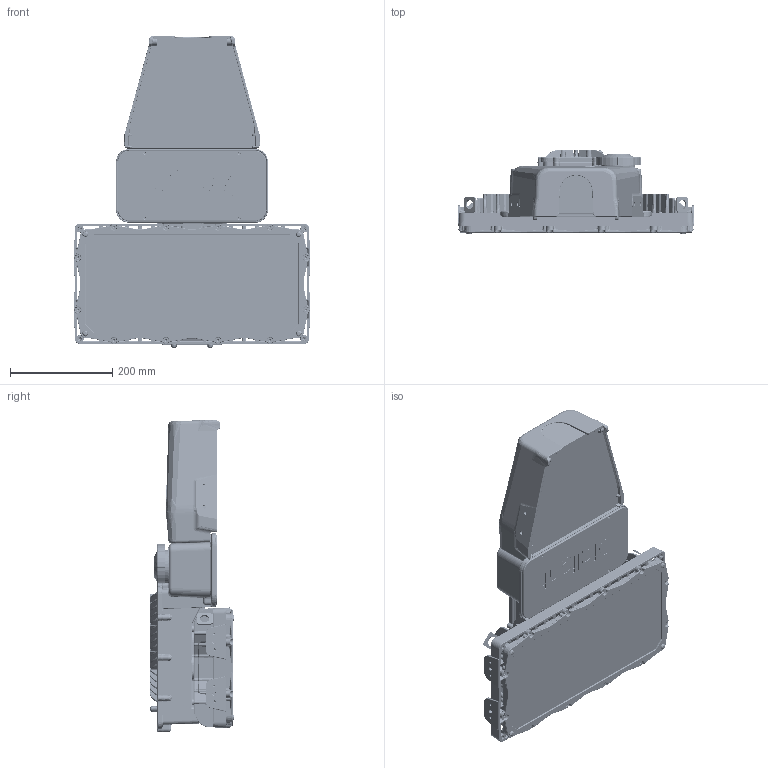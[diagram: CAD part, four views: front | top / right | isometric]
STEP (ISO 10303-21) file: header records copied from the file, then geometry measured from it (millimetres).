
FILE_DESCRIPTION((''),'2;1');
FILE_NAME('8F1X_MAST_ARM_PC_MARKETING_ASM','2024-08-22T12:18:59',('cwang'),(''),'CREO PARAMETRIC BY PTC INC, 2021304','CREO PARAMETRIC BY PTC INC, 2021304','');
FILE_SCHEMA(('CONFIG_CONTROL_DESIGN'));
Products named in the file (27): 0000690301; 0000690295_ASM; 0000690311; 0000690312; 0000690296_ASM; 0000690310; 0000690313; 0000690316; 0000690307; 0000690317; 0000690297_ASM; 0000690318; 0000690320; 0000690298_ASM; 0000690321; 0000690299_ASM; 0000690323; 0000690324; 0000690300_ASM; 0000690327; 0000690333; 9300STL000401; 9300STL000403; 6000STL000300; SLXXXXX_PHOTOCELL_ASM; 9300STL000402; 8F1X_MAST_ARM_PC_MARKETING_ASM
Assembly tree (42 placements, depth 3):
  8F1X_MAST_ARM_PC_MARKETING_ASM
    0000690301
    0000690295_ASM
    0000690311
    0000690296_ASM
      0000690312
    0000690310
    0000690313
    0000690316  x3
    0000690307  x3
    0000690297_ASM
      0000690317
    0000690318  x2
    0000690298_ASM
      0000690320
    0000690299_ASM
      0000690321
    0000690323
    0000690300_ASM
      0000690324
    0000690327  x6
    0000690333  x6
    SLXXXXX_PHOTOCELL_ASM
      9300STL000401
      9300STL000403
      6000STL000300  x2
    9300STL000402
Bounding box: 462.38 x 165.15 x 610.35 mm (x, y, z)
Volume: 13270899 mm3; surface area: 1678983.4 mm2
Topology: 29 solids, 227 shells, 15529 faces, 38009 edges, 22522 vertices
Faces by surface type: bspline 5168, cylinder 4596, plane 2599, torus 1519, cone 1305, sphere 326, extrusion 16
Entity records: 863024 total; most frequent: CARTESIAN_POINT 550020, ORIENTED_EDGE 71761, DIRECTION 55289, EDGE_CURVE 36333, AXIS2_PLACEMENT_3D 22166, VERTEX_POINT 21661, EDGE_LOOP 15560, FACE_OUTER_BOUND 15062
